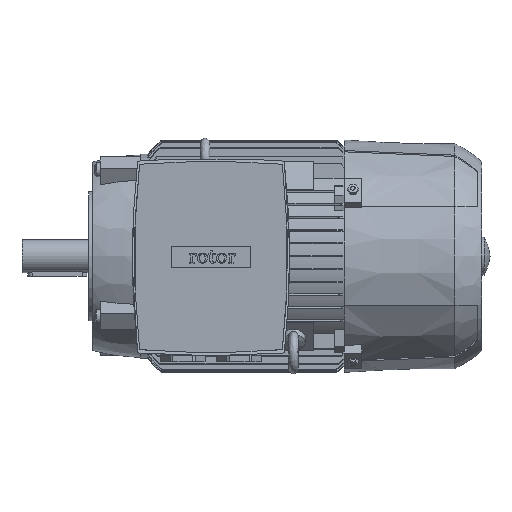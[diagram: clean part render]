
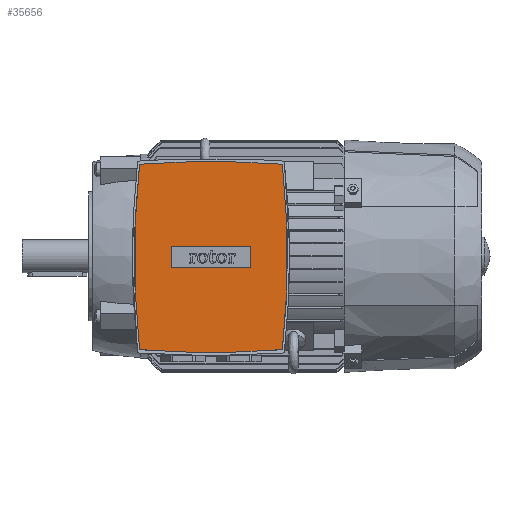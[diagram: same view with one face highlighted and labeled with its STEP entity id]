
A CAD part, top view. The second image highlights one B-rep face of the part: STEP entity #35656.
In plain terms, the highlighted planar face has unit normal (0, 0, 1).
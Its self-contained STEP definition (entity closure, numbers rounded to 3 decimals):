
#929 = DIRECTION ( 'NONE',  ( 0., 0., -1. ) ) ;
#2227 = CARTESIAN_POINT ( 'NONE',  ( 26.25, -10.05, 193. ) ) ;
#2302 = AXIS2_PLACEMENT_3D ( 'NONE', #18866, #929, #21928 ) ;
#3286 = CARTESIAN_POINT ( 'NONE',  ( 26.25, -1., 193. ) ) ;
#3979 = CIRCLE ( 'NONE', #17394, 828.12 ) ;
#4529 = ORIENTED_EDGE ( 'NONE', *, *, #19932, .T. ) ;
#4884 = ORIENTED_EDGE ( 'NONE', *, *, #33701, .T. ) ;
#6078 = DIRECTION ( 'NONE',  ( -1., 0., 0. ) ) ;
#6207 = DIRECTION ( 'NONE',  ( 0., 0., -1. ) ) ;
#6252 = DIRECTION ( 'NONE',  ( 0., 1., 0. ) ) ;
#7163 = ORIENTED_EDGE ( 'NONE', *, *, #27123, .T. ) ;
#7932 = VECTOR ( 'NONE', #14236, 1000. ) ;
#10193 = VECTOR ( 'NONE', #6078, 1000. ) ;
#10981 = AXIS2_PLACEMENT_3D ( 'NONE', #24269, #6207, #27272 ) ;
#11914 = CARTESIAN_POINT ( 'NONE',  ( 60., -1., 193. ) ) ;
#13151 = VERTEX_POINT ( 'NONE', #20322 ) ;
#13618 = CARTESIAN_POINT ( 'NONE',  ( 93.75, -10.05, 193. ) ) ;
#14192 = CARTESIAN_POINT ( 'NONE',  ( 93.75, 8.05, 193. ) ) ;
#14236 = DIRECTION ( 'NONE',  ( 0., -1., 0. ) ) ;
#14597 = CIRCLE ( 'NONE', #30748, 828.12 ) ;
#14853 = EDGE_CURVE ( 'NONE', #13151, #28605, #14597, .T. ) ;
#14909 = CARTESIAN_POINT ( 'NONE',  ( 60., -10.05, 193. ) ) ;
#14947 = DIRECTION ( 'NONE',  ( 1., 0., 0. ) ) ;
#14990 = ORIENTED_EDGE ( 'NONE', *, *, #14853, .F. ) ;
#15947 = LINE ( 'NONE', #29367, #7932 ) ;
#16622 = DIRECTION ( 'NONE',  ( 0., 0., -1. ) ) ;
#17394 = AXIS2_PLACEMENT_3D ( 'NONE', #34711, #16622, #37726 ) ;
#17583 = ORIENTED_EDGE ( 'NONE', *, *, #29746, .F. ) ;
#17908 = PLANE ( 'NONE',  #37106 ) ;
#18250 = LINE ( 'NONE', #14909, #10193 ) ;
#18337 = CARTESIAN_POINT ( 'NONE',  ( 26.25, 8.05, 193. ) ) ;
#18435 = LINE ( 'NONE', #3286, #33572 ) ;
#18866 = CARTESIAN_POINT ( 'NONE',  ( -592.2, -1., 193. ) ) ;
#19726 = VERTEX_POINT ( 'NONE', #13618 ) ;
#19932 = EDGE_CURVE ( 'NONE', #19726, #25071, #18250, .T. ) ;
#20322 = CARTESIAN_POINT ( 'NONE',  ( -0.661, 77.775, 193. ) ) ;
#20841 = VERTEX_POINT ( 'NONE', #29049 ) ;
#21436 = ORIENTED_EDGE ( 'NONE', *, *, #35426, .F. ) ;
#21928 = DIRECTION ( 'NONE',  ( -1., 0., 0. ) ) ;
#24269 = CARTESIAN_POINT ( 'NONE',  ( 712.2, -1., 193. ) ) ;
#25071 = VERTEX_POINT ( 'NONE', #2227 ) ;
#27123 = EDGE_CURVE ( 'NONE', #27962, #34907, #27843, .T. ) ;
#27272 = DIRECTION ( 'NONE',  ( -1., 0., 0. ) ) ;
#27813 = EDGE_CURVE ( 'NONE', #34907, #19726, #15947, .T. ) ;
#27843 = LINE ( 'NONE', #28104, #34913 ) ;
#27962 = VERTEX_POINT ( 'NONE', #18337 ) ;
#28104 = CARTESIAN_POINT ( 'NONE',  ( 60., 8.05, 193. ) ) ;
#28605 = VERTEX_POINT ( 'NONE', #35701 ) ;
#28925 = ORIENTED_EDGE ( 'NONE', *, *, #27813, .T. ) ;
#29049 = CARTESIAN_POINT ( 'NONE',  ( -0.661, -79.775, 193. ) ) ;
#29259 = EDGE_LOOP ( 'NONE', ( #14990, #17583, #21436, #34059 ) ) ;
#29367 = CARTESIAN_POINT ( 'NONE',  ( 93.75, -1., 193. ) ) ;
#29746 = EDGE_CURVE ( 'NONE', #20841, #13151, #35923, .T. ) ;
#29842 = FACE_BOUND ( 'NONE', #38418, .T. ) ;
#30748 = AXIS2_PLACEMENT_3D ( 'NONE', #37612, #37539, #37166 ) ;
#31124 = DIRECTION ( 'NONE',  ( 1., 0., 0. ) ) ;
#31877 = CIRCLE ( 'NONE', #2302, 717.2 ) ;
#32228 = CARTESIAN_POINT ( 'NONE',  ( 120.661, -79.775, 193. ) ) ;
#33079 = DIRECTION ( 'NONE',  ( 0., 0., 1. ) ) ;
#33572 = VECTOR ( 'NONE', #6252, 1000. ) ;
#33701 = EDGE_CURVE ( 'NONE', #25071, #27962, #18435, .T. ) ;
#34059 = ORIENTED_EDGE ( 'NONE', *, *, #34687, .F. ) ;
#34687 = EDGE_CURVE ( 'NONE', #28605, #37552, #31877, .T. ) ;
#34711 = CARTESIAN_POINT ( 'NONE',  ( 60., 746.12, 193. ) ) ;
#34907 = VERTEX_POINT ( 'NONE', #14192 ) ;
#34913 = VECTOR ( 'NONE', #31124, 1000. ) ;
#35426 = EDGE_CURVE ( 'NONE', #37552, #20841, #3979, .T. ) ;
#35656 = ADVANCED_FACE ( 'NONE', ( #36920, #29842 ), #17908, .T. ) ;
#35701 = CARTESIAN_POINT ( 'NONE',  ( 120.661, 77.775, 193. ) ) ;
#35923 = CIRCLE ( 'NONE', #10981, 717.2 ) ;
#36920 = FACE_OUTER_BOUND ( 'NONE', #29259, .T. ) ;
#37106 = AXIS2_PLACEMENT_3D ( 'NONE', #11914, #33079, #14947 ) ;
#37166 = DIRECTION ( 'NONE',  ( -1., 0., 0. ) ) ;
#37539 = DIRECTION ( 'NONE',  ( 0., 0., -1. ) ) ;
#37552 = VERTEX_POINT ( 'NONE', #32228 ) ;
#37612 = CARTESIAN_POINT ( 'NONE',  ( 60., -748.12, 193. ) ) ;
#37726 = DIRECTION ( 'NONE',  ( -1., 0., 0. ) ) ;
#38418 = EDGE_LOOP ( 'NONE', ( #7163, #28925, #4529, #4884 ) ) ;
